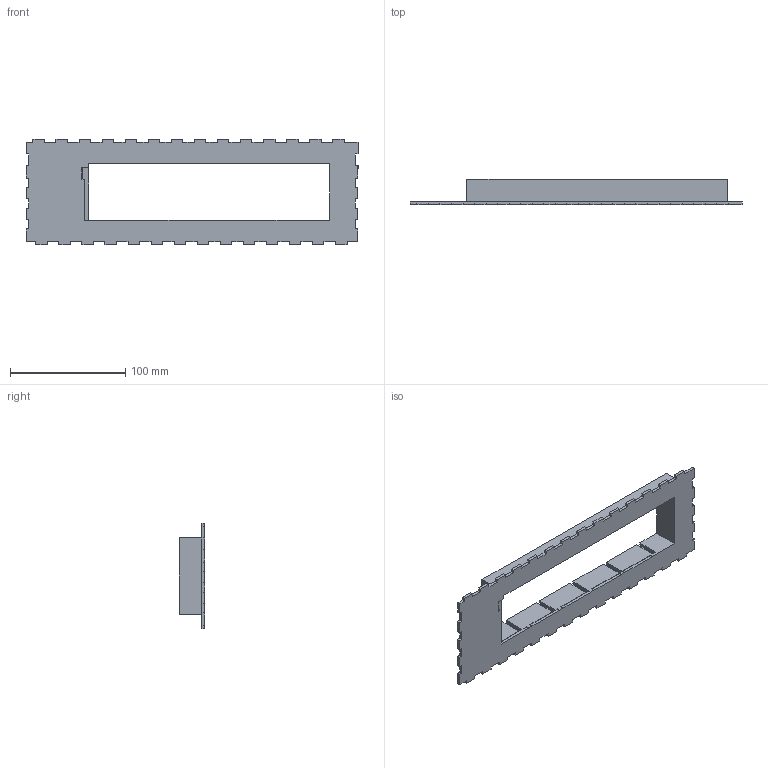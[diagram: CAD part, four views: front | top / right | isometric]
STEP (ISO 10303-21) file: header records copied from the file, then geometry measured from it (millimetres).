
FILE_DESCRIPTION (( 'STEP AP214' ), '1' );
FILE_NAME ('Base_cards6V2.STEP', '2025-06-15T00:44:08', ( '' ), ( '' ), 'SwSTEP 2.0', 'SolidWorks 2024', '' );
FILE_SCHEMA (( 'AUTOMOTIVE_DESIGN' ));
Length unit declared in the file: millimetre
Products named in the file (1): Base_cards6V2
Bounding box: 288 x 22 x 91.6 mm (x, y, z)
Volume: 121950.2 mm3; surface area: 58083 mm2
Topology: 1 solids, 1 shells, 268 faces, 793 edges, 526 vertices
Faces by surface type: plane 268
Entity records: 8784 total; most frequent: CARTESIAN_POINT 1588, ORIENTED_EDGE 1586, DIRECTION 1331, EDGE_CURVE 793, VECTOR 793, LINE 793, VERTEX_POINT 526, EDGE_LOOP 271
